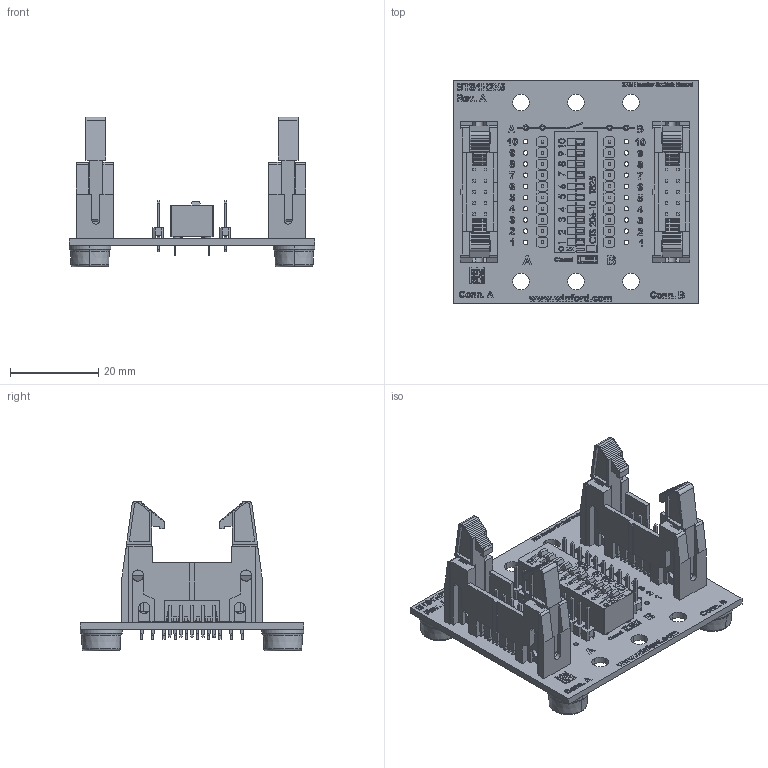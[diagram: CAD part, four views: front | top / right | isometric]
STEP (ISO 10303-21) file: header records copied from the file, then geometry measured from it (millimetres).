
FILE_DESCRIPTION (( 'STEP AP214' ), '1' );
FILE_NAME ('bts1h2x5-ft_rev_a.step', '2022-01-06T13:27:27', ( '' ), ( '' ), 'SwSTEP 2.0', 'SolidWorks 2018', '' );
FILE_SCHEMA (( 'AUTOMOTIVE_DESIGN' ));
Length unit declared in the file: inch
Products named in the file (6): BTS1H2X5_PCB; DIP Switch 10 pin; bts1h2x5-ft_rev_a; single row header- 10 position; RubberFoot_round; Dual Row Header 2x5
Assembly tree (10 placements, depth 2):
  bts1h2x5-ft_rev_a
    BTS1H2X5_PCB
    Dual Row Header 2x5  x2
    DIP Switch 10 pin
    single row header- 10 position  x2
    RubberFoot_round  x4
Bounding box: 55.88 x 50.8 x 34 mm (x, y, z)
Volume: 12416.4 mm3; surface area: 20883.1 mm2
Topology: 87 solids, 87 shells, 4802 faces, 12456 edges, 8024 vertices
Faces by surface type: plane 3409, bspline 787, cylinder 582, torus 16, cone 8
Entity records: 197868 total; most frequent: CARTESIAN_POINT 66914, ORIENTED_EDGE 19622, DIRECTION 14976, EDGE_CURVE 9811, LINE 7310, VECTOR 7310, VERTEX_POINT 6395, EDGE_LOOP 4176
